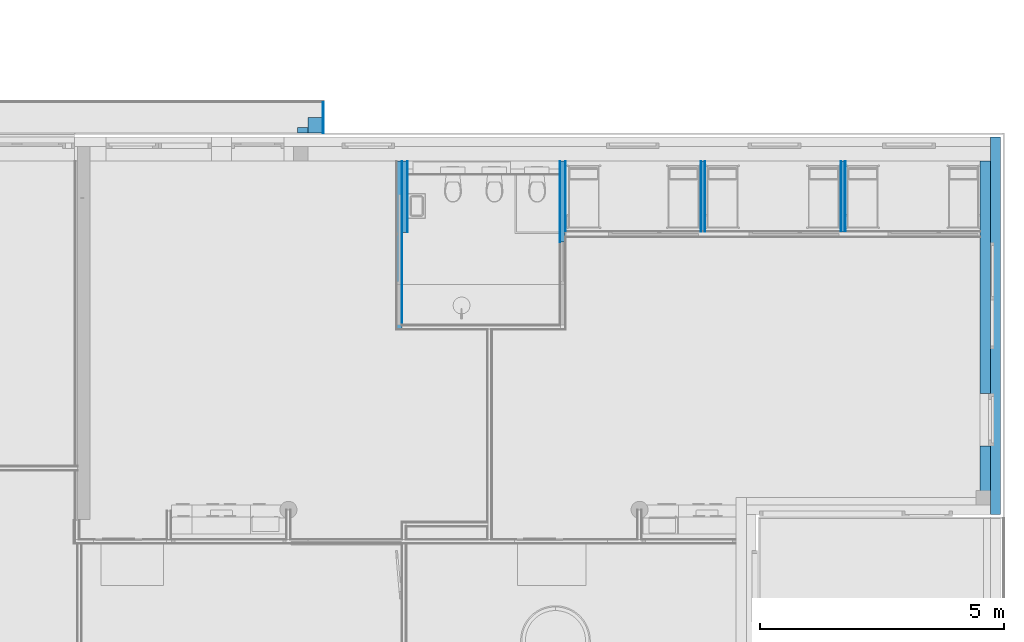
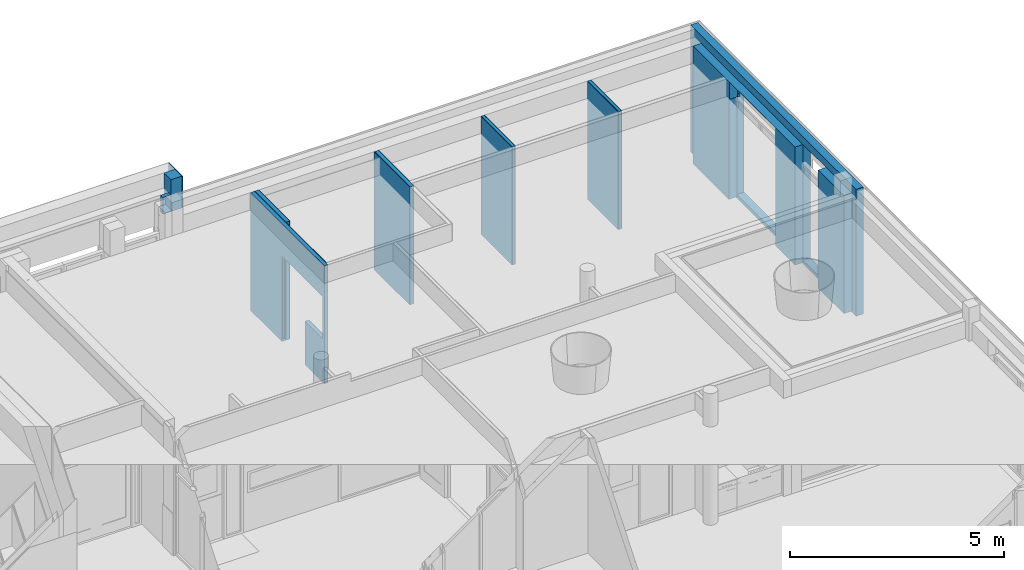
# One storey, part 78 of 167: 19 building element parts, 6 openings, 7 elements without a shape of their own.
"""IFC2X3 building model written with IfcOpenShell, lengths in millimetres."""

from ifc_helpers import new_model, entity, si_unit, converted_unit, derived_unit, money_unit, direction, frame, origin_with_axes, place, context, subcontext, project, spatial, faceted_brep, material, type_object, element, aggregate, save


model = new_model("IFC2X3")

# Units and contexts
model_context = context("Model", 3, precision=0.01, world=origin_with_axes(), true_north=direction((0.0, 1.0)))
plan_context = context("Plan", 3, precision=0.01, world=origin_with_axes(), true_north=direction((0.0, 1.0)))
body_context = subcontext(model_context, "Body", "Model", "MODEL_VIEW")
ifc_project = project(units=[si_unit("LENGTHUNIT", "METRE", prefix="MILLI"), si_unit("AREAUNIT", "SQUARE_METRE"), si_unit("VOLUMEUNIT", "CUBIC_METRE"), converted_unit("PLANEANGLEUNIT", "DEGREE", entity("IfcPlaneAngleMeasure", 0.0174532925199), si_unit("PLANEANGLEUNIT", "RADIAN"), dimensions=[0, 0, 0, 0, 0, 0, 0]), si_unit("SOLIDANGLEUNIT", "STERADIAN"), money_unit("EUR"), converted_unit("TIMEUNIT", "Year", entity("IfcTimeMeasure", 31556926.0), si_unit("TIMEUNIT", "SECOND"), dimensions=[0, 0, 1, 0, 0, 0, 0]), si_unit("MASSUNIT", "GRAM", prefix="KILO"), si_unit("THERMODYNAMICTEMPERATUREUNIT", "DEGREE_CELSIUS"), si_unit("LUMINOUSINTENSITYUNIT", "LUMEN"), si_unit("ENERGYUNIT", "JOULE", prefix="MEGA"), derived_unit("THERMALCONDUCTANCEUNIT", [(si_unit("POWERUNIT", "WATT"), 1), (si_unit("LENGTHUNIT", "METRE"), -1), (si_unit("THERMODYNAMICTEMPERATUREUNIT", "KELVIN"), -1)]), derived_unit("SPECIFICHEATCAPACITYUNIT", [(si_unit("ENERGYUNIT", "JOULE"), 1), (si_unit("MASSUNIT", "GRAM", prefix="KILO"), -1), (si_unit("THERMODYNAMICTEMPERATUREUNIT", "KELVIN"), -1)]), derived_unit("MASSDENSITYUNIT", [(si_unit("MASSUNIT", "GRAM", prefix="KILO"), 1), (si_unit("VOLUMEUNIT", "CUBIC_METRE"), -1)])], contexts=[model_context, plan_context])

# Site, building, storey
site_placement = place(None, origin_with_axes())
site = spatial("IfcSite", under=ifc_project, at=site_placement, Name="Site", CompositionType="ELEMENT")
building_placement = place(site_placement, origin_with_axes())
building = spatial("IfcBuilding", under=site, at=building_placement, Name="Naam gebouw", CompositionType="ELEMENT")
storey_placement = place(building_placement, origin_with_axes())
storey = spatial("IfcBuildingStorey", under=building, at=storey_placement, Name="Begane grond", CompositionType="ELEMENT", Elevation=0.0)

# Wall, building element parts
wall_type_1 = type_object("IfcWallType", Name="_TenW_22_Metalstud 100 enkel gipsvezelplaat 100", PredefinedType="NOTDEFINED")
wall_1_placement = place(storey_placement, frame((37299.9999144, 48050.0001599, -100.0), z_axis=(0.0, 0.0, 1.0), x_axis=(-3.18937443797e-08, 1.0, 0.0)))
wall_1 = element("IfcWall", 1, at=wall_1_placement, inside=storey, type_object=wall_type_1, Name="22_Wand_Wand-x")
ifc_material_1 = material(Name="Gipsplaat watervast")
building_element_part_1_placement = place(wall_1_placement, origin_with_axes())
building_element_part_1 = element("IfcBuildingElementPart", 2, at=building_element_part_1_placement, material=ifc_material_1, Name="Gipsplaat watervast", context=body_context, shape_type="Brep", body=[
    faceted_brep([(1449.99984171, 49.9999537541, 3405.0), (1449.99984131, 37.4999537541, 3405.0), (1449.99984131, 37.4999537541, 30.0), (1449.99984171, 49.9999537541, 30.0), (1.19601395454e-06, 37.5, 3405.0), (1.59468527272e-06, 50.0, 3405.0), (1.19601395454e-06, 37.5, 30.0), (1.59468527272e-06, 50.0, 30.0)], [[[0, 1, 2, 3]], [[4, 1, 0, 5]], [[1, 4, 6, 2]], [[3, 2, 6, 7]], [[5, 0, 3, 7]], [[4, 5, 7, 6]]]),
])
ifc_material_2 = material(Name="Isolatie - Steenwol zacht")
building_element_part_2_placement = place(wall_1_placement, origin_with_axes())
building_element_part_2 = element("IfcBuildingElementPart", 3, at=building_element_part_2_placement, material=ifc_material_2, Name="Isolatie - Steenwol zacht", context=body_context, shape_type="Brep", body=[
    faceted_brep([(1449.99984131, 37.4999537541, 3405.0), (1449.99983892, -37.5000462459, 3405.0), (1449.99983892, -37.5000462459, 30.0), (1449.99984131, 37.4999537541, 30.0), (-1.19601395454e-06, -37.5, 3405.0), (1.19601395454e-06, 37.5, 3405.0), (-1.19601395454e-06, -37.5, 30.0), (1.19601395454e-06, 37.5, 30.0)], [[[0, 1, 2, 3]], [[4, 1, 0, 5]], [[1, 4, 6, 2]], [[3, 2, 6, 7]], [[5, 0, 3, 7]], [[4, 5, 7, 6]]]),
])
building_element_part_3_placement = place(wall_1_placement, origin_with_axes())
building_element_part_3 = element("IfcBuildingElementPart", 4, at=building_element_part_3_placement, material=ifc_material_1, Name="Gipsplaat watervast", context=body_context, shape_type="Brep", body=[
    faceted_brep([(1449.99983892, -37.5000462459, 3405.0), (1449.99983852, -50.0000462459, 3405.0), (1449.99983852, -50.0000462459, 30.0), (1449.99983892, -37.5000462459, 30.0), (-1.59468527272e-06, -50.0, 3405.0), (-1.19601395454e-06, -37.5, 3405.0), (-1.59468527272e-06, -50.0, 30.0), (-1.19601395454e-06, -37.5, 30.0)], [[[0, 1, 2, 3]], [[4, 1, 0, 5]], [[1, 4, 6, 2]], [[3, 2, 6, 7]], [[5, 0, 3, 7]], [[4, 5, 7, 6]]]),
])
aggregate(wall_1, [building_element_part_1, building_element_part_2, building_element_part_3])

# Wall, openings, building element parts
wall_type_2 = type_object("IfcWallType", Name="_TenW_21_Spouwmuur ht-kz-214- RC 4,7 488", PredefinedType="NOTDEFINED")
wall_2_placement = place(storey_placement, frame((43200.0, 42450.0, -100.0), z_axis=(0.0, 0.0, 1.0), x_axis=(0.0, 1.0, 0.0)))
wall_2 = element("IfcWall", 5, at=wall_2_placement, inside=storey, type_object=wall_type_2, Name="21_Wand_Wand-x")
opening_1_placement = place(wall_2_placement, frame((1745.56893967, 0.0, 99.9999574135), z_axis=(0.0, 0.0, 1.0), x_axis=(1.0, 0.0, 0.0)))
element("IfcOpeningElement", 6, at=opening_1_placement, cuts=wall_2, Name="31_Raam_He-09", context=body_context, shape_type="Brep", body=[
    faceted_brep([(-541.26, -74.0, 0.0), (-541.26, -74.0, 2800.0), (-541.26, 702.0, 2800.0), (-541.26, 702.0, 0.0), (541.26, -74.0, 0.0), (541.26, -74.0, 2800.0), (541.26, 702.0, 2800.0), (541.26, 702.0, 0.0)], [[[0, 1, 2, 3]], [[0, 4, 5, 1]], [[1, 5, 6, 2]], [[3, 2, 6, 7]], [[4, 0, 3, 7]], [[5, 4, 7, 6]]]),
    faceted_brep([(-541.26, -74.0, 2800.0), (-541.26, -74.0, 0.0), (-541.26, -762.0, 0.0), (-541.26, -762.0, 2800.0), (541.26, -74.0, 2800.0), (541.26, -74.0, 0.0), (541.26, -762.0, 0.0), (541.26, -762.0, 2800.0)], [[[0, 1, 2, 3]], [[0, 4, 5, 1]], [[1, 5, 6, 2]], [[3, 2, 6, 7]], [[4, 0, 3, 7]], [[5, 4, 7, 6]]]),
])
opening_2_placement = place(wall_2_placement, frame((4288.19893967, 0.0, 100.0), z_axis=(0.0, 0.0, 1.0), x_axis=(1.0, 0.0, 0.0)))
element("IfcOpeningElement", 7, at=opening_2_placement, cuts=wall_2, Name="31_Raam_He-11s", context=body_context, shape_type="Brep", body=[
    faceted_brep([(-1095.0, -154.0, 2800.0), (-1095.0, -69.0, 2800.0), (1095.0, -69.0, 2800.0), (1095.0, -154.0, 2800.0), (-1095.0, -154.0, 2885.0), (-1095.0, -69.0, 2885.0), (1095.0, -69.0, 2885.0), (1095.0, -154.0, 2885.0)], [[[0, 1, 2, 3]], [[0, 4, 5, 1]], [[1, 5, 6, 2]], [[3, 2, 6, 7]], [[4, 0, 3, 7]], [[5, 4, 7, 6]]]),
    faceted_brep([(1095.0, 702.0, 0.0), (1095.0, 702.0, 2800.0), (1095.0, -74.0, 2800.0), (1095.0, -74.0, 0.0), (-1095.0, 702.0, 0.0), (-1095.0, 702.0, 2800.0), (-1095.0, -74.0, 2800.0), (-1095.0, -74.0, 0.0)], [[[0, 1, 2, 3]], [[0, 4, 5, 1]], [[1, 5, 6, 2]], [[3, 2, 6, 7]], [[4, 0, 3, 7]], [[5, 4, 7, 6]]]),
    faceted_brep([(1095.0, -762.0, 2800.0), (1095.0, -762.0, 0.0), (1095.0, -74.0, 0.0), (1095.0, -74.0, 2800.0), (-1095.0, -762.0, 2800.0), (-1095.0, -762.0, 0.0), (-1095.0, -74.0, 0.0), (-1095.0, -74.0, 2800.0)], [[[0, 1, 2, 3]], [[0, 4, 5, 1]], [[1, 5, 6, 2]], [[3, 2, 6, 7]], [[4, 0, 3, 7]], [[5, 4, 7, 6]]]),
])
opening_3_placement = place(wall_2_placement, frame((-42450.0, 43200.0, 100.0), z_axis=(0.0, 0.0, 1.0), x_axis=(0.0, -1.0, 0.0)))
element("IfcOpeningElement", 8, at=opening_3_placement, cuts=wall_2, Name="_Lege opening_Doorvoer-x", context=body_context, shape_type="Brep", body=[
    faceted_brep([(43400.0, 45643.1989397, 2799.99995741), (43400.0, 45643.1989397, 3299.99995741), (42498.0, 45643.1989397, 3299.99995741), (42498.0, 45643.1989397, 2799.99995741), (43400.0, 47803.1189397, 2799.99995741), (43400.0, 47803.1189397, 3299.99995741), (42498.0, 47803.1189397, 3299.99995741), (42498.0, 47803.1189397, 2799.99995741)], [[[0, 1, 2, 3]], [[0, 4, 5, 1]], [[1, 5, 6, 2]], [[3, 2, 6, 7]], [[4, 0, 3, 7]], [[5, 4, 7, 6]]]),
])
opening_4_placement = place(wall_2_placement, frame((-42450.0, 43200.0, 100.0), z_axis=(0.0, 0.0, 1.0), x_axis=(0.0, -1.0, 0.0)))
element("IfcOpeningElement", 9, at=opening_4_placement, cuts=wall_2, Name="_Lege opening_Doorvoer-x", context=body_context, shape_type="Brep", body=[
    faceted_brep([(43400.0, 43654.3089397, 2799.99995741), (43400.0, 43654.3089397, 3305.0), (42498.0, 43654.3089397, 3305.0), (42498.0, 43654.3089397, 2799.99995741), (43400.0, 44738.2491682, 2799.99995741), (43400.0, 44738.2491682, 3305.0), (42498.0, 44738.2491682, 3305.0), (42498.0, 44738.2491682, 2799.99995741)], [[[0, 1, 2, 3]], [[0, 4, 5, 1]], [[1, 5, 6, 2]], [[3, 2, 6, 7]], [[4, 0, 3, 7]], [[5, 4, 7, 6]]]),
])
ifc_material_3 = material(Name="Steen - Kalkzandsteen C")
building_element_part_4_placement = place(wall_2_placement, origin_with_axes())
building_element_part_4 = element("IfcBuildingElementPart", 10, at=building_element_part_4_placement, material=ifc_material_3, Name="Steen - Kalkzandsteen C", context=body_context, shape_type="Brep", body=[
    faceted_brep([(5383.19893967, 0.0, 2900.0), (5383.19893967, 0.0, 100.0), (5383.19893967, 0.0, 30.0), (7050.0, 0.0, 30.0), (7050.0, 0.0, 3405.0), (2288.2491682, 0.0, 3405.0), (2288.2491682, 0.0, 2899.99995741), (2286.82893967, 0.0, 2899.99995741), (2286.82893967, 0.0, 99.9999574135), (2286.82893967, 0.0, 30.0), (3193.19893967, 0.0, 30.0), (3193.19893967, 0.0, 100.0), (3193.19893967, 0.0, 2900.0), (3193.19893967, 0.0, 3399.99995741), (5353.11893967, 0.0, 3399.99995741), (5353.11893967, 0.0, 2909.99995741), (5383.19893967, 0.0, 2909.99995741), (5383.19893967, 196.0, 2900.0), (5383.19893967, 214.0, 2900.0), (5383.19893967, 214.0, 100.0), (5383.19893967, 214.0, 30.0), (7050.0, 214.0, 30.0), (7050.0, 214.0, 3405.0), (2288.2491682, 214.0, 3405.0), (2288.2491682, 214.0, 2899.99995741), (2286.82893967, 214.0, 2899.99995741), (2286.82893967, 214.0, 99.9999574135), (2286.82893967, 214.0, 30.0), (3193.19893967, 214.0, 30.0), (3193.19893967, 214.0, 100.0), (3193.19893967, 214.0, 2900.0), (3193.19893967, 214.0, 3399.99995741), (5353.11893967, 214.0, 3399.99995741), (5353.11893967, 214.0, 2900.0), (5353.11893967, 196.0, 2900.0), (5353.11893967, 196.0, 2909.99995741), (5383.19893967, 196.0, 2909.99995741)], [[[0, 1, 2, 3, 4, 5, 6, 7, 8, 9, 10, 11, 12, 13, 14, 15, 16]], [[1, 0, 17, 18, 19]], [[1, 19, 20, 2]], [[21, 3, 2, 20]], [[3, 21, 22, 4]], [[22, 23, 5, 4]], [[24, 6, 5, 23]], [[7, 6, 24, 25]], [[7, 25, 26, 8]], [[26, 27, 9, 8]], [[9, 27, 28, 10]], [[29, 11, 10, 28]], [[30, 12, 11, 29]], [[12, 30, 31, 13]], [[14, 13, 31, 32]], [[33, 34, 35, 15, 14, 32]], [[35, 36, 16, 15]], [[17, 0, 16, 36]], [[17, 34, 33, 18]], [[18, 33, 32, 31, 30, 29, 28, 27, 26, 25, 24, 23, 22, 21, 20, 19]], [[34, 17, 36, 35]]]),
    faceted_brep([(0.0, 0.0, 30.0), (1204.30893967, 0.0, 30.0), (1204.30893967, 0.0, 99.9999574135), (1204.30893967, 0.0, 2899.99995741), (1186.82893967, 0.0, 2899.99995741), (1186.82893967, 0.0, 2909.99995741), (1204.30893967, 0.0, 2909.99995741), (1204.30893967, 0.0, 3405.0), (0.0, 0.0, 3405.0), (1186.82893967, 0.0, 3359.99995741), (1186.82893967, 0.0, 3009.99995741), (1181.82893967, 0.0, 3009.99995741), (1181.82893967, 0.0, 3359.99995741), (0.0, 214.0, 30.0), (1204.30893967, 214.0, 30.0), (1204.30893967, 214.0, 99.9999574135), (1204.30893967, 214.0, 2899.99995741), (1204.30893967, 196.0, 2899.99995741), (1186.82893967, 196.0, 2899.99995741), (1186.82893967, 196.0, 2909.99995741), (1204.30893967, 196.0, 2909.99995741), (1204.30893967, 214.0, 3405.0), (0.0, 214.0, 3405.0), (1186.82893967, 214.0, 3359.99995741), (1186.82893967, 214.0, 3009.99995741), (1181.82893967, 214.0, 3009.99995741), (1181.82893967, 214.0, 3359.99995741)], [[[0, 1, 2, 3, 4, 5, 6, 7, 8], [9, 10, 11, 12]], [[13, 14, 1, 0]], [[1, 14, 15, 2]], [[15, 16, 17, 3, 2]], [[18, 4, 3, 17]], [[19, 5, 4, 18]], [[19, 20, 6, 5]], [[6, 20, 17, 16, 21, 7]], [[22, 8, 7, 21]], [[0, 8, 22, 13]], [[23, 24, 10, 9]], [[24, 25, 11, 10]], [[25, 26, 12, 11]], [[26, 23, 9, 12]], [[22, 21, 16, 15, 14, 13], [23, 26, 25, 24]], [[18, 17, 20, 19]]]),
])
building_element_part_5_placement = place(wall_2_placement, origin_with_axes())
building_element_part_5 = element("IfcBuildingElementPart", 11, at=building_element_part_5_placement, material=ifc_material_2, Name="Isolatie - Steenwol zacht", context=body_context, shape_type="Brep", body=[
    faceted_brep([(5353.11893967, -154.0, 2900.0), (5383.19893967, -154.0, 2900.0), (5383.19893967, -200.0, 2900.0), (5353.11893967, -200.0, 2900.0), (5353.11893967, -154.0, 2979.99995741), (5365.19893967, -154.0, 2979.99995741), (5365.19893967, -154.0, 2985.0), (5383.19893967, -154.0, 2985.0), (5383.19893967, -74.0, 2900.0), (5383.19893967, -74.0, 100.0), (5383.19893967, -200.0, 100.0), (7550.0, -200.0, 0.0), (7550.0, -200.0, 3629.99999902), (-200.0, -200.0, 3629.99999998), (-200.0, -200.0, 0.0), (2286.82893967, -200.0, 99.9999574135), (1204.30893967, -200.0, 99.9999574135), (1204.30893967, -200.0, 2899.99995741), (1204.30893967, -200.0, 3389.99995741), (1181.82893967, -200.0, 3389.99995741), (1181.82893967, -200.0, 3399.99995741), (1204.30893967, -200.0, 3399.99995741), (1204.30893967, -200.0, 3405.0), (2288.2491682, -200.0, 3405.0), (2288.2491682, -200.0, 2899.99995741), (2286.82893967, -200.0, 2899.99995741), (5365.19893967, -200.0, 3399.99995741), (5365.19893967, -200.0, 3389.99995741), (5353.11893967, -200.0, 3389.99995741), (3193.19893967, -200.0, 100.0), (3193.19893967, -200.0, 2900.0), (3193.19893967, -200.0, 3399.99995741), (5353.11893967, -200.0, 3399.99995741), (5353.11893967, -16.0, 3389.99995741), (5353.11893967, -16.0, 3399.99995741), (5353.11893967, 0.0, 3399.99995741), (5353.11893967, 0.0, 2909.99995741), (5353.11893967, -3.66471820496, 2909.99995741), (5353.11893967, -3.66471820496, 2900.0), (5353.11893967, -69.0, 2900.0), (5353.11893967, -69.0, 2979.99995741), (5353.11893967, -16.0, 2979.99995741), (5353.11893967, -16.0, 2989.99995741), (5353.11893967, -176.0, 2989.99995741), (5353.11893967, -176.0, 2979.99995741), (5365.19893967, -176.0, 2979.99995741), (5365.19893967, -176.0, 2989.99995741), (5365.19893967, -16.0, 2989.99995741), (5365.19893967, -16.0, 2979.99995741), (5365.19893967, -69.0, 2979.99995741), (5365.19893967, -69.0, 2985.0), (5383.19893967, -69.0, 2985.0), (5383.19893967, -69.0, 2900.0), (5383.19893967, -3.66471820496, 2900.0), (5383.19893967, 0.0, 2900.0), (5383.19893967, 0.0, 100.0), (3193.19893967, -74.0, 100.0), (7550.0, 0.0, 3629.99999902), (7550.0, 0.0, 0.0), (-200.0, 0.0, 3629.99999998), (-200.0, 0.0, 0.0), (2286.82893967, -74.0, 99.9999574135), (1204.30893967, -74.0, 99.9999574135), (1204.30893967, -74.0, 2899.99995741), (1204.30893967, -3.66471820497, 2909.99995741), (1204.30893967, 0.0, 2909.99995741), (1204.30893967, 0.0, 3405.0), (1204.30893967, -16.0, 3399.99995741), (1204.30893967, -16.0, 3389.99995741), (1204.30893967, -3.66471820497, 2899.99995741), (1204.30893967, -176.0, 2979.99995741), (1204.30893967, -176.0, 2989.99995741), (1204.30893967, -16.0, 2989.99995741), (1204.30893967, -16.0, 2979.99995741), (1181.82893967, -16.0, 3389.99995741), (1181.82893967, -16.0, 3399.99995741), (2288.2491682, 0.0, 3405.0), (2288.2491682, 0.0, 2899.99995741), (2286.82893967, -74.0, 2899.99995741), (2286.82893967, 0.0, 2899.99995741), (5365.19893967, -16.0, 3399.99995741), (5365.19893967, -16.0, 3389.99995741), (3193.19893967, -74.0, 2900.0), (3193.19893967, 0.0, 3399.99995741), (3193.19893967, 0.0, 2900.0), (1181.82893967, 0.0, 3009.99995741), (1186.82893967, 0.0, 3009.99995741), (1186.82893967, 0.0, 3359.99995741), (1181.82893967, 0.0, 3359.99995741), (1186.82893967, 0.0, 2909.99995741), (1186.82893967, 0.0, 2899.99995741), (1204.30893967, 0.0, 2899.99995741), (1204.30893967, 0.0, 99.9999574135), (2286.82893967, 0.0, 99.9999574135), (3193.19893967, 0.0, 100.0), (5383.19893967, 0.0, 2909.99995741), (5383.19893967, -3.66471820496, 2909.99995741), (1186.82893967, -3.66471820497, 2909.99995741), (1186.82893967, -3.66471820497, 2899.99995741), (1199.82893967, -176.0, 2979.99995741), (1199.82893967, -176.0, 2989.99995741), (1199.82893967, -16.0, 2989.99995741), (1199.82893967, -16.0, 2979.99995741), (1181.82893967, -16.0, 3009.99995741), (1186.82893967, -16.0, 3009.99995741), (1186.82893967, -16.0, 3359.99995741), (1181.82893967, -16.0, 3359.99995741)], [[[0, 1, 2, 3]], [[1, 0, 4, 5, 6, 7]], [[1, 8, 9, 10, 2]], [[11, 12, 13, 14], [15, 16, 17, 18, 19, 20, 21, 22, 23, 24, 25], [26, 27, 28, 3, 2, 10, 29, 30, 31, 32]], [[4, 0, 3, 28, 33, 34, 35, 36, 37, 38, 39, 40, 41, 42, 43, 44]], [[5, 4, 44, 45]], [[6, 5, 45, 46, 47, 48, 49, 50]], [[6, 50, 51, 7]], [[8, 1, 7, 51, 52]], [[8, 52, 53, 54, 55, 9]], [[56, 29, 10, 9]], [[57, 12, 11, 58]], [[12, 57, 59, 13]], [[59, 60, 14, 13]], [[58, 11, 14, 60]], [[15, 61, 62, 16]], [[16, 62, 63, 17]], [[64, 65, 66, 22, 21, 67, 68, 18, 17, 63, 69], [70, 71, 72, 73]], [[18, 68, 74, 19]], [[19, 74, 75, 20]], [[21, 20, 75, 67]], [[76, 23, 22, 66]], [[77, 24, 23, 76]], [[78, 25, 24, 77, 79]], [[25, 78, 61, 15]], [[26, 80, 81, 27]], [[27, 81, 33, 28]], [[82, 30, 29, 56]], [[83, 31, 30, 82, 84]], [[34, 32, 31, 83, 35]], [[32, 34, 80, 26]], [[33, 81, 80, 34]], [[57, 58, 60, 59], [85, 86, 87, 88], [79, 77, 76, 66, 65, 89, 90, 91, 92, 93], [83, 84, 94, 55, 54, 95, 36, 35]], [[36, 95, 96, 37]], [[38, 37, 96, 53]], [[52, 39, 38, 53]], [[39, 52, 51, 50, 49, 40]], [[40, 49, 48, 41]], [[41, 48, 47, 42]], [[42, 47, 46, 43]], [[43, 46, 45, 44]], [[53, 96, 95, 54]], [[9, 55, 94, 56]], [[92, 62, 61, 93]], [[63, 62, 92, 91, 69]], [[64, 97, 89, 65]], [[67, 75, 74, 68]], [[69, 98, 97, 64]], [[70, 99, 100, 71]], [[71, 100, 101, 72]], [[72, 101, 102, 73]], [[73, 102, 99, 70]], [[93, 61, 78, 79]], [[82, 56, 94, 84]], [[86, 85, 103, 104]], [[87, 86, 104, 105]], [[88, 87, 105, 106]], [[85, 88, 106, 103]], [[89, 97, 98, 90]], [[98, 69, 91, 90]], [[101, 100, 99, 102]], [[103, 106, 105, 104]]]),
])
aggregate(wall_2, [building_element_part_4, building_element_part_5])

# Wall, building element parts
wall_type_3 = type_object("IfcWallType", Name="_TenW_21_E-BOARD_V1_standaard 538", PredefinedType="NOTDEFINED")
wall_3_placement = place(storey_placement, frame((29200.0, 50076.740783, 3050.0), z_axis=(0.0, 0.0, 1.0), x_axis=(0.0, 1.0, 0.0)))
wall_3 = element("IfcWall", 12, at=wall_3_placement, inside=storey, type_object=wall_type_3, Name="21_Wand_Wand-x")
building_element_part_6_placement = place(wall_3_placement, origin_with_axes())
building_element_part_6 = element("IfcBuildingElementPart", 13, at=building_element_part_6_placement, material=ifc_material_3, Name="Steen - Kalkzandsteen C", context=body_context, shape_type="Brep", body=[
    faceted_brep([(109.259217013, 214.0, 480.0), (109.259217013, 0.0, 480.0), (109.259217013, 0.0, 0.0), (109.259217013, 214.0, 0.0), (0.0, 0.0, 480.0), (0.0, 214.0, 480.0), (0.0, 0.0, 0.0), (0.0, 214.0, 0.0)], [[[0, 1, 2, 3]], [[4, 1, 0, 5]], [[1, 4, 6, 2]], [[7, 3, 2, 6]], [[5, 0, 3, 7]], [[4, 5, 7, 6]]]),
])
building_element_part_7_placement = place(wall_3_placement, origin_with_axes())
building_element_part_7 = element("IfcBuildingElementPart", 14, at=building_element_part_7_placement, material=ifc_material_2, Name="Isolatie - Steenwol zacht", context=body_context, shape_type="Brep", body=[
    faceted_brep([(0.0, -304.0, 0.0), (323.259217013, -304.0, 0.0), (323.259217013, -304.0, 910.0), (0.0, -304.0, 910.0), (0.0, 0.0, 0.0), (323.259217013, 0.0, 0.0), (323.259217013, 0.0, 910.0), (0.0, 0.0, 910.0)], [[[0, 1, 2, 3]], [[4, 5, 1, 0]], [[5, 6, 2, 1]], [[3, 2, 6, 7]], [[0, 3, 7, 4]], [[7, 6, 5, 4]]]),
])
ifc_material_4 = material(Name="_TenW_21_Steen - Baksteen")
building_element_part_8_placement = place(wall_3_placement, origin_with_axes())
building_element_part_8 = element("IfcBuildingElementPart", 15, at=building_element_part_8_placement, material=ifc_material_4, Name="_TenW_21_Steen - Baksteen", context=body_context, shape_type="Brep", body=[
    faceted_brep([(627.259217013, -324.0, 0.0), (627.259217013, -324.0, 910.0), (0.0, -324.0, 910.0), (0.0, -324.0, 0.0), (627.259217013, -304.0, 910.0), (627.259217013, -304.0, 0.0), (0.0, -304.0, 910.0), (0.0, -304.0, 0.0)], [[[0, 1, 2, 3]], [[4, 1, 0, 5]], [[1, 4, 6, 2]], [[2, 6, 7, 3]], [[5, 0, 3, 7]], [[4, 5, 7, 6]]]),
])
aggregate(wall_3, [building_element_part_6, building_element_part_7, building_element_part_8])

wall_4_placement = place(storey_placement, frame((40174.9998586, 48000.0001575, -100.0), z_axis=(0.0, 0.0, 1.0), x_axis=(0.0, 1.0, 0.0)))
wall_4 = element("IfcWall", 16, at=wall_4_placement, inside=storey, type_object=wall_type_1, Name="22_Wand_Wand-x")
building_element_part_9_placement = place(wall_4_placement, origin_with_axes())
building_element_part_9 = element("IfcBuildingElementPart", 17, at=building_element_part_9_placement, material=ifc_material_1, Name="Gipsplaat watervast", context=body_context, shape_type="Brep", body=[
    faceted_brep([(1499.99984251, 50.0, 3405.0), (1499.99984251, 37.5, 3405.0), (1499.99984251, 37.5, 30.0), (1499.99984251, 50.0, 30.0), (62.5, 37.5, 3405.0), (62.5, 50.0, 3405.0), (62.5, 37.5, 30.0), (62.5, 50.0, 30.0)], [[[0, 1, 2, 3]], [[4, 1, 0, 5]], [[1, 4, 6, 2]], [[3, 2, 6, 7]], [[5, 0, 3, 7]], [[4, 5, 7, 6]]]),
])
building_element_part_10_placement = place(wall_4_placement, origin_with_axes())
building_element_part_10 = element("IfcBuildingElementPart", 18, at=building_element_part_10_placement, material=ifc_material_2, Name="Isolatie - Steenwol zacht", context=body_context, shape_type="Brep", body=[
    faceted_brep([(1499.99984251, 37.5, 3405.0), (1499.99984251, -37.5, 3405.0), (1499.99984251, -37.5, 30.0), (1499.99984251, 37.5, 30.0), (50.0, -37.5, 3405.0), (50.0, 37.5, 3405.0), (50.0, -37.5, 30.0), (50.0, 37.5, 30.0)], [[[0, 1, 2, 3]], [[4, 1, 0, 5]], [[1, 4, 6, 2]], [[3, 2, 6, 7]], [[5, 0, 3, 7]], [[4, 5, 7, 6]]]),
])
building_element_part_11_placement = place(wall_4_placement, origin_with_axes())
building_element_part_11 = element("IfcBuildingElementPart", 19, at=building_element_part_11_placement, material=ifc_material_1, Name="Gipsplaat watervast", context=body_context, shape_type="Brep", body=[
    faceted_brep([(1499.99984251, -37.5, 3405.0), (1499.99984251, -50.0, 3405.0), (1499.99984251, -50.0, 30.0), (1499.99984251, -37.5, 30.0), (62.5, -50.0, 3405.0), (62.5, -37.5, 3405.0), (62.5, -50.0, 30.0), (62.5, -37.5, 30.0)], [[[0, 1, 2, 3]], [[4, 1, 0, 5]], [[1, 4, 6, 2]], [[3, 2, 6, 7]], [[5, 0, 3, 7]], [[4, 5, 7, 6]]]),
])
aggregate(wall_4, [building_element_part_9, building_element_part_10, building_element_part_11])

# Wall, openings, building element parts
wall_type_4 = type_object("IfcWallType", Name="_TenW_22_Metalstud 125 enkel gipsvezelplaat  125", PredefinedType="NOTDEFINED")
wall_5_placement = place(storey_placement, frame((31074.9999301, 49800.0, -100.0), z_axis=(0.0, 0.0, 1.0), x_axis=(0.0, -1.0, 0.0)))
wall_5 = element("IfcWall", 20, at=wall_5_placement, inside=storey, type_object=wall_type_4, Name="22_Wand_Wand-x")
opening_5_placement = place(wall_5_placement, frame((3246.50005985, 0.0, 1270.0), z_axis=(0.0, 0.0, 1.0), x_axis=(1.0, 0.0, 0.0)))
element("IfcOpeningElement", 21, at=opening_5_placement, cuts=wall_5, Name="31_Raam_Hi-48a", context=body_context, shape_type="Brep", body=[
    faceted_brep([(-412.499996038, 125.0, 1200.0), (-412.499996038, 125.0, 0.0), (-412.499996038, -250.0, 0.0), (-412.499996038, -250.0, 1200.0), (412.499996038, 125.0, 1200.0), (412.499996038, 125.0, 0.0), (412.499996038, -250.0, 0.0), (412.499996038, -250.0, 1200.0)], [[[0, 1, 2, 3]], [[0, 4, 5, 1]], [[1, 5, 6, 2]], [[3, 2, 6, 7]], [[4, 0, 3, 7]], [[5, 4, 7, 6]]]),
])
opening_6_placement = place(wall_5_placement, frame((2296.50006381, 0.0, 100.0), z_axis=(0.0, 0.0, 1.0), x_axis=(1.0, 0.0, 0.0)))
element("IfcOpeningElement", 22, at=opening_6_placement, cuts=wall_5, Name="32_Deur_Si-06", context=body_context, shape_type="Brep", body=[
    faceted_brep([(-537.5, 125.0, 2370.0), (-537.5, 125.0, 0.0), (-537.5, -250.0, 0.0), (-537.5, -250.0, 2370.0), (537.5, 125.0, 2370.0), (537.5, 125.0, 0.0), (537.5, -250.0, 0.0), (537.5, -250.0, 2370.0)], [[[0, 1, 2, 3]], [[0, 4, 5, 1]], [[1, 5, 6, 2]], [[3, 2, 6, 7]], [[4, 0, 3, 7]], [[5, 4, 7, 6]]]),
    faceted_brep([(-1416.5, -25.0, 0.0), (-1416.5, -25.0, 2303.0), (-1416.5, 25.0, 2303.0), (-1416.5, 25.0, 0.0), (-537.5, -25.0, 0.0), (-537.5, -25.0, 2303.0), (-537.5, 25.0, 2303.0), (-537.5, 25.0, 0.0)], [[[0, 1, 2, 3]], [[0, 4, 5, 1]], [[1, 5, 6, 2]], [[3, 2, 6, 7]], [[4, 0, 3, 7]], [[5, 4, 7, 6]]]),
])
building_element_part_12_placement = place(wall_5_placement, origin_with_axes())
building_element_part_12 = element("IfcBuildingElementPart", 23, at=building_element_part_12_placement, material=ifc_material_1, Name="Gipsplaat watervast", context=body_context, shape_type="Brep", body=[
    faceted_brep([(2834.00006381, 62.5, 100.0), (2834.00006381, 62.5, 1270.0), (3659.00005589, 62.5, 1270.0), (3659.00005589, 62.5, 30.0), (2834.00006381, 62.5, 30.0), (2834.00006381, 50.0, 1270.0), (2834.00006381, 50.0, 100.0), (3659.00005589, 50.0, 1270.0), (3659.00005589, 50.0, 30.0), (2834.00006381, 50.0, 30.0)], [[[0, 1, 2, 3, 4]], [[5, 1, 0, 6]], [[1, 5, 7, 2]], [[7, 8, 3, 2]], [[3, 8, 9, 4]], [[6, 0, 4, 9]], [[5, 6, 9, 8, 7]]]),
    faceted_brep([(1759.00006381, 62.5, 2470.0), (1759.00006381, 62.5, 100.0), (1759.00006381, 62.5, 30.0), (300.0, 62.5, 30.0), (300.0, 62.5, 3405.0), (3659.00005589, 62.5, 3405.0), (3659.00005589, 62.5, 2470.0), (2834.00006381, 62.5, 2470.0), (1759.00006381, 50.0, 2470.0), (1759.00006381, 50.0, 100.0), (1759.00006381, 50.0, 30.0), (300.0, 50.0, 30.0), (300.0, 50.0, 3405.0), (3659.00005589, 50.0, 3405.0), (3659.00005589, 50.0, 2470.0), (2834.00006381, 50.0, 2470.0)], [[[0, 1, 2, 3, 4, 5, 6, 7]], [[1, 0, 8, 9]], [[1, 9, 10, 2]], [[11, 3, 2, 10]], [[3, 11, 12, 4]], [[12, 13, 5, 4]], [[6, 5, 13, 14]], [[15, 8, 0, 7, 6, 14]], [[8, 15, 14, 13, 12, 11, 10, 9]]]),
])
building_element_part_13_placement = place(wall_5_placement, origin_with_axes())
building_element_part_13 = element("IfcBuildingElementPart", 24, at=building_element_part_13_placement, material=ifc_material_2, Name="Isolatie - Steenwol zacht", context=body_context, shape_type="Brep", body=[
    faceted_brep([(1759.00006381, -25.0, 100.0), (1759.00006381, -25.0, 2403.0), (1759.00006381, 25.0, 2403.0), (1759.00006381, 25.0, 100.0), (1759.00006381, 50.0, 100.0), (1759.00006381, 50.0, 2470.0), (1759.00006381, -50.0, 2470.0), (1759.00006381, -50.0, 100.0), (880.000063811, -25.0, 100.0), (880.000063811, -25.0, 2403.0), (880.000063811, 25.0, 2403.0), (880.000063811, 25.0, 100.0), (1759.00006381, -50.0, 30.0), (1759.00006381, 50.0, 30.0), (3659.00005589, 50.0, 1270.0), (3659.00005589, 50.0, 2470.0), (300.0, 50.0, 30.0), (300.0, 50.0, 3405.0), (3746.50005589, 50.0, 3405.0), (3746.50005589, 50.0, 30.0), (2834.00006381, 50.0, 30.0), (2834.00006381, 50.0, 100.0), (2834.00006381, 50.0, 1270.0), (3659.00005589, -50.0, 2470.0), (300.0, -50.0, 30.0), (3659.00005589, -50.0, 1270.0), (2834.00006381, -50.0, 1270.0), (2834.00006381, -50.0, 100.0), (2834.00006381, -50.0, 30.0), (3746.50005589, -50.0, 30.0), (3746.50005589, -50.0, 3405.0), (300.0, -50.0, 3405.0)], [[[0, 1, 2, 3, 4, 5, 6, 7]], [[1, 0, 8, 9]], [[2, 1, 9, 10]], [[3, 2, 10, 11]], [[3, 0, 7, 12, 13, 4]], [[14, 15, 5, 4, 13, 16, 17, 18, 19, 20, 21, 22]], [[5, 15, 23, 6]], [[24, 12, 7, 6, 23, 25, 26, 27, 28, 29, 30, 31]], [[0, 3, 11, 8]], [[9, 8, 11, 10]], [[16, 13, 12, 24]], [[25, 23, 15, 14]], [[24, 31, 17, 16]], [[30, 18, 17, 31]], [[19, 18, 30, 29]], [[29, 28, 20, 19]], [[21, 20, 28, 27]], [[22, 21, 27, 26]], [[26, 25, 14, 22]]]),
])
aggregate(wall_5, [building_element_part_12, building_element_part_13])

# Wall, building element parts
wall_6_placement = place(storey_placement, frame((34424.9999309, 48000.0001575, -100.0), z_axis=(0.0, 0.0, 1.0), x_axis=(-3.14727940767e-08, 1.0, 0.0)))
wall_6 = element("IfcWall", 25, at=wall_6_placement, inside=storey, type_object=wall_type_4, Name="22_Wand_Wand-x")
building_element_part_14_placement = place(wall_6_placement, origin_with_axes())
building_element_part_14 = element("IfcBuildingElementPart", 26, at=building_element_part_14_placement, material=ifc_material_1, Name="Gipsplaat watervast", context=body_context, shape_type="Brep", body=[
    faceted_brep([(1499.99984448, 62.4999527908, 3405.0), (1499.99984408, 49.9999527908, 3405.0), (1499.99984408, 49.9999527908, 30.0), (1499.99984448, 62.4999527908, 30.0), (-162.500001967, 50.0000051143, 3405.0), (-162.500001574, 62.5000051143, 3405.0), (-162.500001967, 50.0000051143, 30.0), (-162.500001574, 62.5000051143, 30.0)], [[[0, 1, 2, 3]], [[4, 1, 0, 5]], [[1, 4, 6, 2]], [[3, 2, 6, 7]], [[5, 0, 3, 7]], [[4, 5, 7, 6]]]),
])
building_element_part_15_placement = place(wall_6_placement, origin_with_axes())
building_element_part_15 = element("IfcBuildingElementPart", 27, at=building_element_part_15_placement, material=ifc_material_2, Name="Isolatie - Steenwol zacht", context=body_context, shape_type="Brep", body=[
    faceted_brep([(1499.99984408, 49.9999527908, 3405.0), (1499.99984093, -50.0000472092, 3405.0), (1499.99984093, -50.0000472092, 30.0), (1499.99984408, 49.9999527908, 30.0), (-162.500001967, -49.9999948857, 3405.0), (-162.49999882, 50.0000051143, 3405.0), (-162.500001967, -49.9999948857, 30.0), (-162.49999882, 50.0000051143, 30.0)], [[[0, 1, 2, 3]], [[4, 1, 0, 5]], [[1, 4, 6, 2]], [[3, 2, 6, 7]], [[5, 0, 3, 7]], [[4, 5, 7, 6]]]),
])
building_element_part_16_placement = place(wall_6_placement, origin_with_axes())
building_element_part_16 = element("IfcBuildingElementPart", 28, at=building_element_part_16_placement, material=ifc_material_1, Name="Gipsplaat watervast", context=body_context, shape_type="Brep", body=[
    faceted_brep([(1499.99984093, -50.0000472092, 3405.0), (1499.99984054, -62.5000472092, 3405.0), (1499.99984054, -62.5000472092, 30.0), (1499.99984093, -50.0000472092, 30.0), (62.4999980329, -62.5000019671, 3405.0), (62.4999984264, -50.000001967, 3405.0), (62.499998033, -62.5000019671, 30.0), (62.4999984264, -50.000001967, 30.0)], [[[0, 1, 2, 3]], [[4, 1, 0, 5]], [[1, 4, 6, 2]], [[3, 2, 6, 7]], [[5, 0, 3, 7]], [[4, 5, 7, 6]]]),
])
aggregate(wall_6, [building_element_part_14, building_element_part_15, building_element_part_16])

wall_7_placement = place(storey_placement, frame((31187.499953, 48040.9999362, -100.0), z_axis=(0.0, 0.0, 1.0), x_axis=(0.0, 1.0, 0.0)))
wall_7 = element("IfcWall", 29, at=wall_7_placement, inside=storey, type_object=wall_type_4, Name="22_Wand_Wand-x")
building_element_part_17_placement = place(wall_7_placement, origin_with_axes())
building_element_part_17 = element("IfcBuildingElementPart", 30, at=building_element_part_17_placement, material=ifc_material_1, Name="Gipsplaat watervast", context=body_context, shape_type="Brep", body=[
    faceted_brep([(1459.00006381, 62.5, 3405.0), (1459.00006381, 50.0, 3405.0), (1459.00006381, 50.0, 30.0), (1459.00006381, 62.5, 30.0), (0.0, 50.0, 3405.0), (0.0, 62.5, 3405.0), (0.0, 50.0, 30.0), (0.0, 62.5, 30.0)], [[[0, 1, 2, 3]], [[4, 1, 0, 5]], [[1, 4, 6, 2]], [[3, 2, 6, 7]], [[5, 0, 3, 7]], [[4, 5, 7, 6]]]),
])
building_element_part_18_placement = place(wall_7_placement, origin_with_axes())
building_element_part_18 = element("IfcBuildingElementPart", 31, at=building_element_part_18_placement, material=ifc_material_2, Name="Isolatie - Steenwol zacht", context=body_context, shape_type="Brep", body=[
    faceted_brep([(1459.00006381, 50.0, 3405.0), (1459.00006381, -50.0, 3405.0), (1459.00006381, -50.0, 30.0), (1459.00006381, 50.0, 30.0), (0.0, -50.0, 3405.0), (0.0, 50.0, 3405.0), (0.0, -50.0, 30.0), (0.0, 50.0, 30.0)], [[[0, 1, 2, 3]], [[4, 1, 0, 5]], [[1, 4, 6, 2]], [[3, 2, 6, 7]], [[5, 0, 3, 7]], [[4, 5, 7, 6]]]),
])
building_element_part_19_placement = place(wall_7_placement, origin_with_axes())
building_element_part_19 = element("IfcBuildingElementPart", 32, at=building_element_part_19_placement, material=ifc_material_1, Name="Gipsplaat watervast", context=body_context, shape_type="Brep", body=[
    faceted_brep([(1459.00006381, -50.0, 3405.0), (1459.00006381, -62.5, 3405.0), (1459.00006381, -62.5, 30.0), (1459.00006381, -50.0, 30.0), (0.0, -62.5, 3405.0), (0.0, -50.0, 3405.0), (0.0, -62.5, 30.0), (0.0, -50.0, 30.0)], [[[0, 1, 2, 3]], [[4, 1, 0, 5]], [[1, 4, 6, 2]], [[3, 2, 6, 7]], [[5, 0, 3, 7]], [[4, 5, 7, 6]]]),
])
aggregate(wall_7, [building_element_part_17, building_element_part_18, building_element_part_19])

save(model, "model.ifc")
